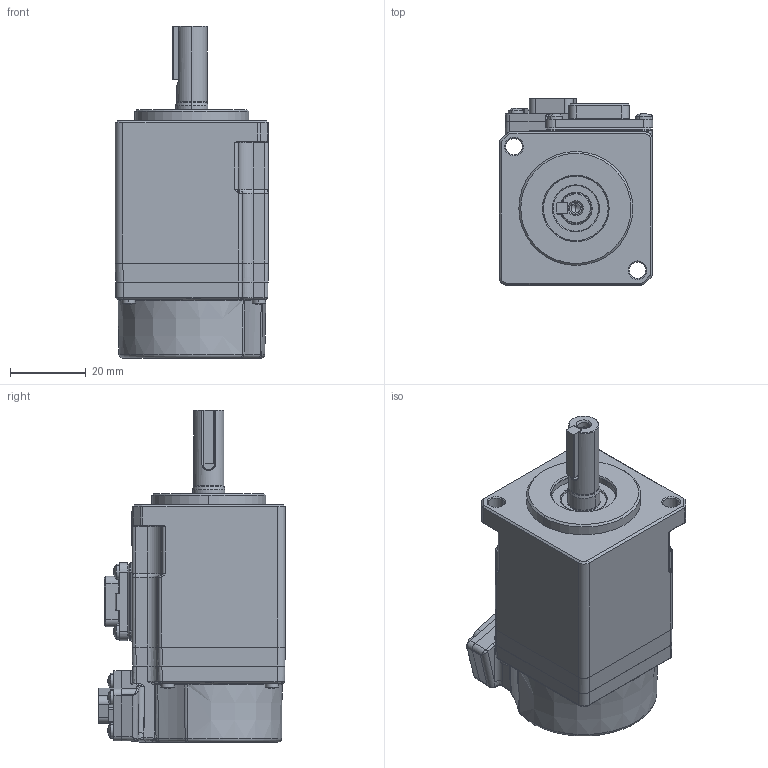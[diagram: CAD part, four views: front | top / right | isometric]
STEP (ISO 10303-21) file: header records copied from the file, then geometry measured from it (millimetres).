
FILE_DESCRIPTION (( 'STEP AP214' ), '1' );
FILE_NAME ('40法兰-50W-无油封无制动器(RSA1-H040AA5B30N).STEP', '2024-09-06T08:24:51', ( '' ), ( '' ), 'SwSTEP 2.0', 'SolidWorks 2020', '' );
FILE_SCHEMA (( 'AUTOMOTIVE_DESIGN' ));
Length unit declared in the file: millimetre
Products named in the file (10): 40-梓袧綴傷裔; 苤萇儂晤鎢傷赽; 3114000001_十字槽盘头自挤螺钉_M2x5(GBT6560-2014 锌镍合金 黑色); 40法兰-50W-无油封无制动器(RSA1-H040AA5B30N); 40-8粣噤25粣扥; 40-綴裔; す瑩_B3x3x14; 3112000005_十字槽小盘头螺钉_M2x8(GBT823-2000 锌镍合金 黑色 耐落）; 40-50W儂褲-拸蚐猾; 3231000001_勾板螺丝型6pin连接器插座_GAMC3064_无制动器线
Assembly tree (19 placements, depth 2):
  40法兰-50W-无油封无制动器(RSA1-H040AA5B30N)
    40-50W儂褲-拸蚐猾
    3112000005_十字槽小盘头螺钉_M2x8(GBT823-2000 锌镍合金 黑色 耐落）  x4
    3114000001_十字槽盘头自挤螺钉_M2x5(GBT6560-2014 锌镍合金 黑色)  x8
    3231000001_勾板螺丝型6pin连接器插座_GAMC3064_无制动器线
    40-8粣噤25粣扥
    40-梓袧綴傷裔
    40-綴裔
    苤萇儂晤鎢傷赽
    す瑩_B3x3x14
Bounding box: 40.4 x 49.1 x 87.4 mm (x, y, z)
Volume: 75156.8 mm3; surface area: 35170.4 mm2
Topology: 21 solids, 21 shells, 2979 faces, 7989 edges, 5126 vertices
Faces by surface type: plane 1509, cylinder 622, bspline 436, cone 240, torus 142, sphere 30
Entity records: 108937 total; most frequent: CARTESIAN_POINT 35216, ORIENTED_EDGE 14124, DIRECTION 11682, EDGE_CURVE 7062, VERTEX_POINT 4538, VECTOR 4252, LINE 4252, AXIS2_PLACEMENT_3D 3715
